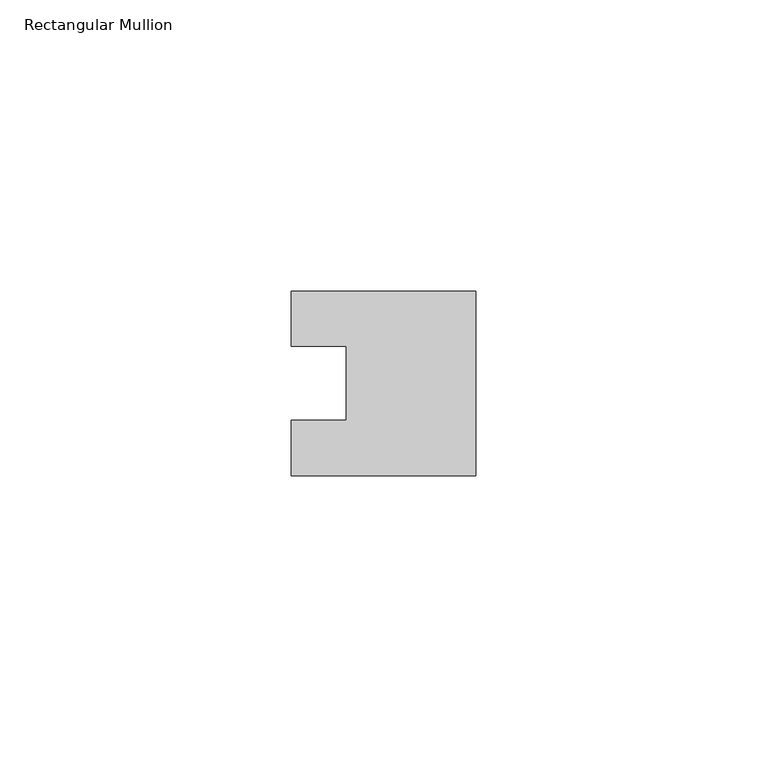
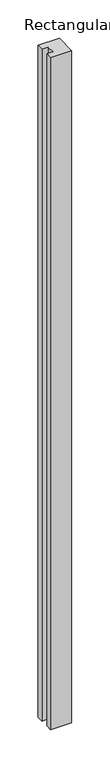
"""IFC4 building model written with IfcOpenShell, lengths in millimetres: member geometry, Rectangular Mullion : Melius SG Base Rail."""

from ifc_helpers import new_model, si_unit, frame, origin, place, context, project, spatial, polyline, outline, extrude, source, transform, mapped, element, save


def rectangular_mullion_01cb9bb9(model_context):
    return source(origin(), model_context, "Body", "SweptSolid", [
        extrude(outline(polyline([(-31.75, 15.875), (0.0, 15.875), (0.0, -15.875), (-31.75, -15.875), (-31.75, -6.35), (-22.225, -6.35), (-22.225, 6.35), (-31.75, 6.35), (-31.75, 15.875)])), frame((0.0, 0.0, -1065.7562254), z_axis=(0.0, 0.0, 1.0), x_axis=(1.0, 0.0, 0.0)), (0.0, 0.0, 1.0), 1065.7562254),
    ])


if __name__ == "__main__":
    model = new_model("IFC4")
    model_context = context("Model", 3, world=origin())
    ifc_project = project(units=[si_unit("LENGTHUNIT", "METRE", prefix="MILLI")], contexts=[model_context])
    site = spatial("IfcSite", under=ifc_project)
    building = spatial("IfcBuilding", under=site)
    placement = place(None, origin())
    rectangular_mullion_shape = rectangular_mullion_01cb9bb9(model_context)
    element("IfcMember", 1, ObjectType="Rectangular Mullion : Melius SG Base Rail", at=placement, inside=building, context=model_context, shape_type="MappedRepresentation", body=[
        mapped(rectangular_mullion_shape, transform((0.0, 0.0, 0.0), x_axis=(1.0, 0.0, 0.0), y_axis=(0.0, 1.0, 0.0), z_axis=(0.0, 0.0, 1.0))),
    ])
    save(model, "model.ifc")
